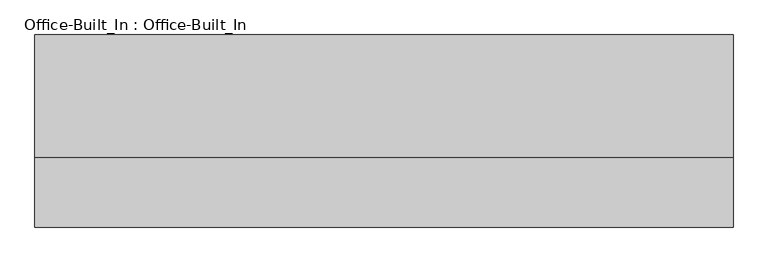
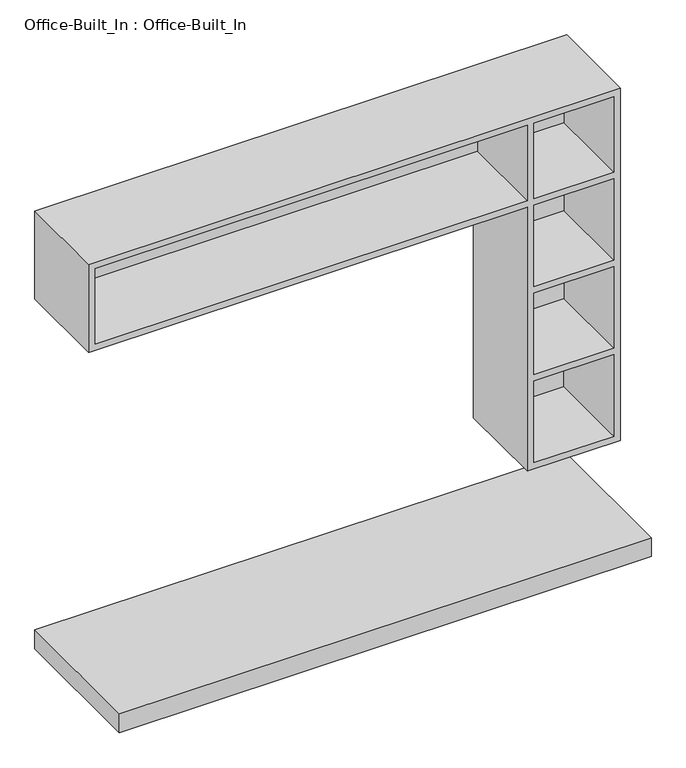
"""IFC4 building model written with IfcOpenShell, lengths in millimetres: furniture geometry, Office-Built_In : Office-Built_In."""

from ifc_helpers import new_model, si_unit, frame, origin, place, context, project, spatial, polyline, outline, extrude, faceted_brep, source, transform, mapped, element, save


def office_built_in_office_built_in_b2bebc89(model_context):
    return source(origin(), model_context, "Body", "SolidModel", [
        extrude(outline(polyline([(1441.1377049, -50.8), (1441.1377049, -609.6), (-590.8622951, -609.6), (-590.8622951, -50.8), (1441.1377049, -50.8)])), frame((0.0, 0.0, 685.8), z_axis=(0.0, 0.0, 1.0), x_axis=(1.0, 0.0, 0.0)), (0.0, 0.0, 1.0), 76.2),
        faceted_brep([(1441.1377049, -50.8, 2454.275), (1441.1377049, -50.8, 1031.875), (1085.5377049, -50.8, 1031.875), (1085.5377049, -50.8, 2098.675), (-590.8622951, -50.8, 2098.675), (-590.8622951, -50.8, 2454.275), (1441.1377049, -406.4, 2454.275), (1441.1377049, -406.4, 1031.875), (1085.5377049, -406.4, 1031.875), (1085.5377049, -406.4, 2098.675), (-590.8622951, -406.4, 2454.275), (-590.8622951, -406.4, 2098.675), (1415.7377049, -406.4, 1387.475), (1415.7377049, -406.4, 1057.275), (1110.9377049, -406.4, 1057.275), (1110.9377049, -406.4, 1387.475), (1085.5377049, -406.4, 2428.875), (1085.5377049, -406.4, 2124.075), (-565.4622951, -406.4, 2124.075), (-565.4622951, -406.4, 2428.875), (1415.7377049, -406.4, 2428.875), (1415.7377049, -406.4, 2124.075), (1110.9377049, -406.4, 2124.075), (1110.9377049, -406.4, 2428.875), (1415.7377049, -406.4, 2098.675), (1415.7377049, -406.4, 1768.475), (1110.9377049, -406.4, 1768.475), (1110.9377049, -406.4, 2098.675), (1415.7377049, -406.4, 1743.075), (1415.7377049, -406.4, 1412.875), (1110.9377049, -406.4, 1412.875), (1110.9377049, -406.4, 1743.075), (1415.7377049, -76.2, 1387.475), (1415.7377049, -76.2, 1057.275), (1110.9377049, -76.2, 1057.275), (1110.9377049, -76.2, 1387.475), (1085.5377049, -76.2, 2428.875), (-565.4622951, -76.2, 2428.875), (-565.4622951, -76.2, 2124.075), (1085.5377049, -76.2, 2124.075), (1415.7377049, -76.2, 2428.875), (1110.9377049, -76.2, 2428.875), (1110.9377049, -76.2, 2124.075), (1415.7377049, -76.2, 2124.075), (1415.7377049, -76.2, 2098.675), (1110.9377049, -76.2, 2098.675), (1110.9377049, -76.2, 1768.475), (1415.7377049, -76.2, 1768.475), (1415.7377049, -76.2, 1743.075), (1110.9377049, -76.2, 1743.075), (1110.9377049, -76.2, 1412.875), (1415.7377049, -76.2, 1412.875)], [[[0, 1, 2, 3, 4, 5]], [[1, 0, 6, 7]], [[2, 1, 7, 8]], [[3, 2, 8, 9]], [[6, 10, 11, 9, 8, 7], [12, 13, 14, 15], [16, 17, 18, 19], [20, 21, 22, 23], [24, 25, 26, 27], [28, 29, 30, 31]], [[5, 4, 11, 10]], [[0, 5, 10, 6]], [[4, 3, 9, 11]], [[32, 33, 13, 12]], [[33, 34, 14, 13]], [[34, 35, 15, 14]], [[36, 37, 38, 39]], [[40, 41, 42, 43]], [[44, 45, 46, 47]], [[48, 49, 50, 51]], [[32, 35, 34, 33]], [[36, 39, 17, 16]], [[38, 37, 19, 18]], [[37, 36, 16, 19]], [[40, 43, 21, 20]], [[42, 41, 23, 22]], [[41, 40, 20, 23]], [[39, 38, 18, 17]], [[43, 42, 22, 21]], [[44, 47, 25, 24]], [[47, 46, 26, 25]], [[46, 45, 27, 26]], [[45, 44, 24, 27]], [[48, 51, 29, 28]], [[51, 50, 30, 29]], [[50, 49, 31, 30]], [[49, 48, 28, 31]], [[35, 32, 12, 15]]]),
    ])


if __name__ == "__main__":
    model = new_model("IFC4")
    model_context = context("Model", 3, world=origin())
    ifc_project = project(units=[si_unit("LENGTHUNIT", "METRE", prefix="MILLI")], contexts=[model_context])
    site = spatial("IfcSite", under=ifc_project)
    building = spatial("IfcBuilding", under=site)
    placement = place(None, origin())
    office_built_in_office_built_in_shape = office_built_in_office_built_in_b2bebc89(model_context)
    element("IfcFurniture", 1, ObjectType="Office-Built_In : Office-Built_In", at=placement, inside=building, context=model_context, shape_type="MappedRepresentation", body=[
        mapped(office_built_in_office_built_in_shape, transform((0.0, 0.0, 0.0), x_axis=(1.0, 0.0, 0.0), y_axis=(0.0, 1.0, 0.0), z_axis=(0.0, 0.0, 1.0))),
    ])
    save(model, "model.ifc")
